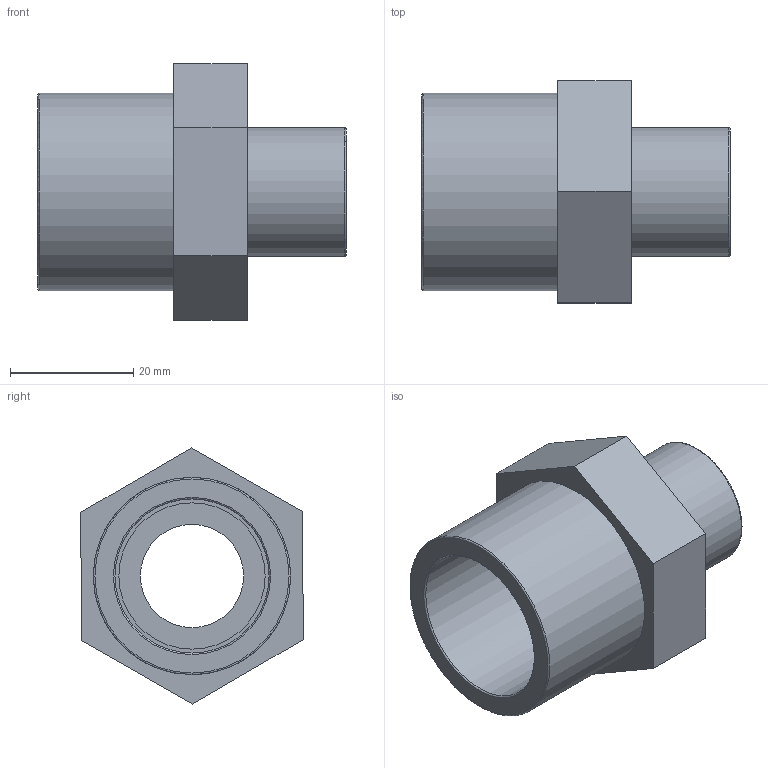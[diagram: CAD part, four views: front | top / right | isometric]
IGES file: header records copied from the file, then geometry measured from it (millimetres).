
Global section: file name: 052202025005.ipt; native system: Autodesk Inventor 2015; preprocessor: unknown; author: KIM; date: 20171207.165436; units: millimetre
Bounding box: 50 x 36.08 x 41.57 mm (x, y, z)
Volume: 17883.9 mm3; surface area: 9916.7 mm2
Topology: 1 solids, 1 shells, 21 faces, 55 edges, 40 vertices
Faces by surface type: plane 12, revolution 7, cylinder 2
Full cylindrical faces by diameter (mm): 20.955 x1, 32 x1
